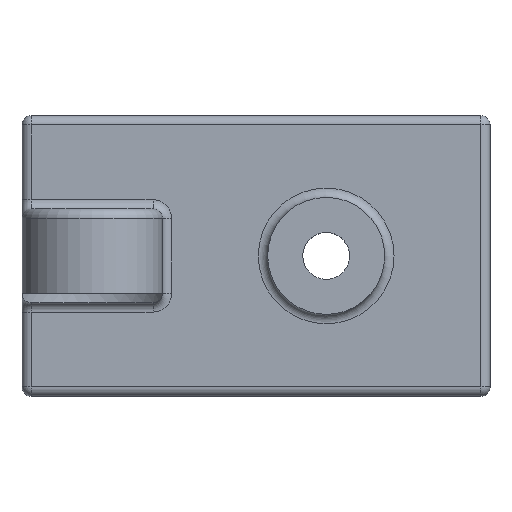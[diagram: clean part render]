
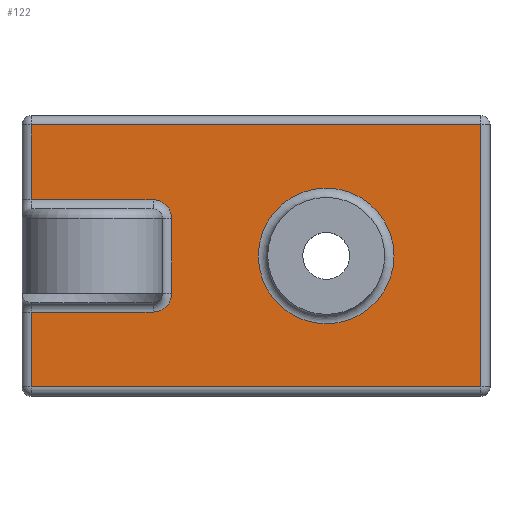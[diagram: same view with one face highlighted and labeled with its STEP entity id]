
A CAD part, top view. The second image highlights one B-rep face of the part: STEP entity #122.
In plain terms, the highlighted planar face has unit normal (0, 0, 1).
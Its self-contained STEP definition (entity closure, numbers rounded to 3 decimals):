
#122=ADVANCED_FACE('',(#261,#262),#263,.T.);
#261=FACE_BOUND('',#433,.T.);
#262=FACE_OUTER_BOUND('',#434,.T.);
#263=PLANE('',#435);
#433=EDGE_LOOP('',(#638));
#434=EDGE_LOOP('',(#639,#640,#641,#642,#643,#644,#645,#646,#647,#648));
#435=AXIS2_PLACEMENT_3D('',#649,#650,#651);
#638=ORIENTED_EDGE('',*,*,#1048,.T.);
#639=ORIENTED_EDGE('',*,*,#1049,.T.);
#640=ORIENTED_EDGE('',*,*,#1050,.T.);
#641=ORIENTED_EDGE('',*,*,#1051,.F.);
#642=ORIENTED_EDGE('',*,*,#1052,.T.);
#643=ORIENTED_EDGE('',*,*,#1053,.F.);
#644=ORIENTED_EDGE('',*,*,#1054,.T.);
#645=ORIENTED_EDGE('',*,*,#1055,.T.);
#646=ORIENTED_EDGE('',*,*,#1056,.T.);
#647=ORIENTED_EDGE('',*,*,#1057,.T.);
#648=ORIENTED_EDGE('',*,*,#1058,.T.);
#649=CARTESIAN_POINT('',(0.0,0.0,17.0));
#650=DIRECTION('',(0.0,0.0,1.0));
#651=DIRECTION('',(1.0,0.0,0.0));
#1048=EDGE_CURVE('',#1245,#1245,#1246,.F.);
#1049=EDGE_CURVE('',#1247,#1248,#1249,.T.);
#1050=EDGE_CURVE('',#1248,#1250,#1251,.F.);
#1051=EDGE_CURVE('',#1252,#1250,#1253,.T.);
#1052=EDGE_CURVE('',#1252,#1254,#1255,.F.);
#1053=EDGE_CURVE('',#1256,#1254,#1257,.T.);
#1054=EDGE_CURVE('',#1256,#1258,#1259,.F.);
#1055=EDGE_CURVE('',#1258,#1260,#1261,.T.);
#1056=EDGE_CURVE('',#1260,#1262,#1263,.T.);
#1057=EDGE_CURVE('',#1262,#1264,#1265,.T.);
#1058=EDGE_CURVE('',#1264,#1247,#1266,.T.);
#1245=VERTEX_POINT('',#1527);
#1246=CIRCLE('',#1528,14.5);
#1247=VERTEX_POINT('',#1529);
#1248=VERTEX_POINT('',#1530);
#1249=LINE('',#1531,#1532);
#1250=VERTEX_POINT('',#1533);
#1251=LINE('',#1534,#1535);
#1252=VERTEX_POINT('',#1536);
#1253=CIRCLE('',#1537,4.0);
#1254=VERTEX_POINT('',#1538);
#1255=LINE('',#1539,#1540);
#1256=VERTEX_POINT('',#1541);
#1257=CIRCLE('',#1542,4.0);
#1258=VERTEX_POINT('',#1543);
#1259=LINE('',#1544,#1545);
#1260=VERTEX_POINT('',#1546);
#1261=LINE('',#1547,#1548);
#1262=VERTEX_POINT('',#1549);
#1263=LINE('',#1550,#1551);
#1264=VERTEX_POINT('',#1552);
#1265=LINE('',#1553,#1554);
#1266=LINE('',#1555,#1556);
#1527=CARTESIAN_POINT('',(79.5,0.,17.0));
#1528=AXIS2_PLACEMENT_3D('',#1775,#1776,#1777);
#1529=CARTESIAN_POINT('',(2.0,28.0,17.0));
#1530=CARTESIAN_POINT('',(2.0,12.0,17.0));
#1531=CARTESIAN_POINT('',(2.0,0.,17.0));
#1532=VECTOR('',#1778,1.0);
#1533=CARTESIAN_POINT('',(28.0,12.0,17.0));
#1534=CARTESIAN_POINT('',(30.0,12.0,17.0));
#1535=VECTOR('',#1779,1.0);
#1536=CARTESIAN_POINT('',(32.0,8.0,17.0));
#1537=AXIS2_PLACEMENT_3D('',#1780,#1781,#1782);
#1538=CARTESIAN_POINT('',(32.0,-8.0,17.0));
#1539=CARTESIAN_POINT('',(32.0,-10.0,17.0));
#1540=VECTOR('',#1783,1.0);
#1541=CARTESIAN_POINT('',(28.0,-12.0,17.0));
#1542=AXIS2_PLACEMENT_3D('',#1784,#1785,#1786);
#1543=CARTESIAN_POINT('',(2.0,-12.0,17.0));
#1544=CARTESIAN_POINT('',(0.0,-12.0,17.0));
#1545=VECTOR('',#1787,1.0);
#1546=CARTESIAN_POINT('',(2.0,-28.0,17.0));
#1547=CARTESIAN_POINT('',(2.0,0.,17.0));
#1548=VECTOR('',#1788,1.0);
#1549=CARTESIAN_POINT('',(98.0,-28.0,17.0));
#1550=CARTESIAN_POINT('',(0.0,-28.0,17.0));
#1551=VECTOR('',#1789,1.0);
#1552=CARTESIAN_POINT('',(98.0,28.0,17.0));
#1553=CARTESIAN_POINT('',(98.0,0.,17.0));
#1554=VECTOR('',#1790,1.0);
#1555=CARTESIAN_POINT('',(0.,28.0,17.0));
#1556=VECTOR('',#1791,1.0);
#1775=CARTESIAN_POINT('',(65.0,0.0,17.0));
#1776=DIRECTION('',(0.0,0.0,1.0));
#1777=DIRECTION('',(1.0,0.0,0.0));
#1778=DIRECTION('',(0.,-1.0,0.0));
#1779=DIRECTION('',(-1.0,0.,0.0));
#1780=CARTESIAN_POINT('',(28.0,8.0,17.0));
#1781=DIRECTION('',(0.0,0.0,1.0));
#1782=DIRECTION('',(1.0,0.0,0.0));
#1783=DIRECTION('',(0.,1.0,0.0));
#1784=CARTESIAN_POINT('',(28.0,-8.0,17.0));
#1785=DIRECTION('',(0.0,0.0,1.0));
#1786=DIRECTION('',(1.0,0.0,0.0));
#1787=DIRECTION('',(1.0,0.0,0.0));
#1788=DIRECTION('',(0.,-1.0,0.0));
#1789=DIRECTION('',(1.0,0.0,0.0));
#1790=DIRECTION('',(0.,1.0,0.0));
#1791=DIRECTION('',(-1.0,0.,0.0));
